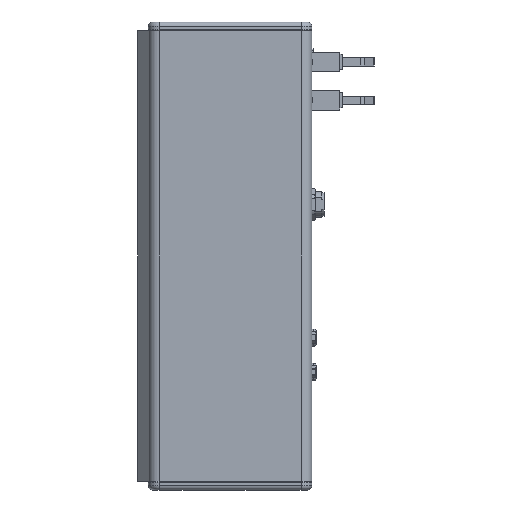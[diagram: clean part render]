
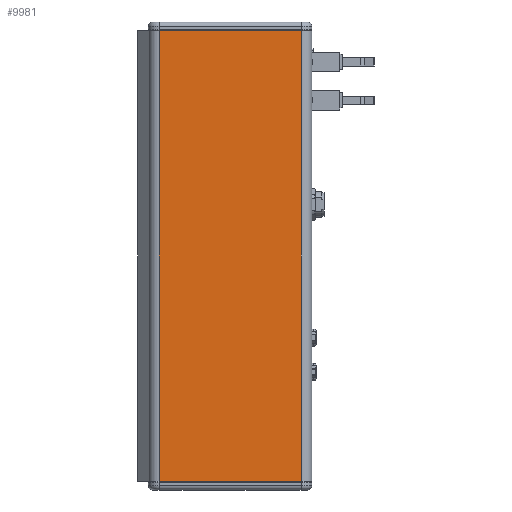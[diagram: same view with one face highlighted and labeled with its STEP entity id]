
A CAD part, left-side view. The second image highlights one B-rep face of the part: STEP entity #9981.
In plain terms, the highlighted planar face has unit normal (-1, 0, 0).
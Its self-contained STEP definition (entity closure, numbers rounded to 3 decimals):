
#638 = CARTESIAN_POINT ( 'NONE',  ( -58.399, 35.219, 205. ) ) ;
#716 = CARTESIAN_POINT ( 'NONE',  ( -58.399, -30.931, 205. ) ) ;
#717 = DIRECTION ( 'NONE',  ( 0., 1., 0. ) ) ;
#800 = VECTOR ( 'NONE', #717, 1000. ) ;
#801 = CARTESIAN_POINT ( 'NONE',  ( -58.399, -30.931, 205. ) ) ;
#802 = LINE ( 'NONE', #801, #800 ) ;
#2399 = FACE_OUTER_BOUND ( 'NONE', #9982, .T. ) ;
#2545 = AXIS2_PLACEMENT_3D ( 'NONE', #2628, #2627, #2626 ) ;
#2546 = PLANE ( 'NONE',  #2545 ) ;
#2623 = DIRECTION ( 'NONE',  ( 0., 0., 1. ) ) ;
#2624 = VECTOR ( 'NONE', #2623, 1000. ) ;
#2625 = CARTESIAN_POINT ( 'NONE',  ( -58.399, -30.931, -5. ) ) ;
#2626 = DIRECTION ( 'NONE',  ( 0., 0., -1. ) ) ;
#2627 = DIRECTION ( 'NONE',  ( 1., 0., 0. ) ) ;
#2628 = CARTESIAN_POINT ( 'NONE',  ( -58.399, -30.931, -5. ) ) ;
#2629 = LINE ( 'NONE', #2625, #2624 ) ;
#2881 = DIRECTION ( 'NONE',  ( 0., 0., 1. ) ) ;
#2882 = VECTOR ( 'NONE', #2881, 1000. ) ;
#2883 = CARTESIAN_POINT ( 'NONE',  ( -58.399, 35.219, -5. ) ) ;
#2884 = LINE ( 'NONE', #2883, #2882 ) ;
#7165 = EDGE_CURVE ( 'NONE', #7235, #7166, #40113, .T. ) ;
#7166 = VERTEX_POINT ( 'NONE', #40222 ) ;
#7235 = VERTEX_POINT ( 'NONE', #40242 ) ;
#8229 = VERTEX_POINT ( 'NONE', #638 ) ;
#8375 = EDGE_CURVE ( 'NONE', #8377, #8229, #802, .T. ) ;
#8377 = VERTEX_POINT ( 'NONE', #716 ) ;
#9981 = ADVANCED_FACE ( 'NONE', ( #2399 ), #2546, .F. ) ;
#9982 = EDGE_LOOP ( 'NONE', ( #10267, #10268, #10318, #10205 ) ) ;
#9984 = EDGE_CURVE ( 'NONE', #7235, #8377, #2629, .T. ) ;
#10205 = ORIENTED_EDGE ( 'NONE', *, *, #9984, .T. ) ;
#10267 = ORIENTED_EDGE ( 'NONE', *, *, #8375, .T. ) ;
#10268 = ORIENTED_EDGE ( 'NONE', *, *, #10269, .F. ) ;
#10269 = EDGE_CURVE ( 'NONE', #7166, #8229, #2884, .T. ) ;
#10318 = ORIENTED_EDGE ( 'NONE', *, *, #7165, .F. ) ;
#40113 = LINE ( 'NONE', #40212, #40211 ) ;
#40210 = DIRECTION ( 'NONE',  ( 0., 1., 0. ) ) ;
#40211 = VECTOR ( 'NONE', #40210, 1000. ) ;
#40212 = CARTESIAN_POINT ( 'NONE',  ( -58.399, -30.931, -5. ) ) ;
#40222 = CARTESIAN_POINT ( 'NONE',  ( -58.399, 35.219, -5. ) ) ;
#40242 = CARTESIAN_POINT ( 'NONE',  ( -58.399, -30.931, -5. ) ) ;
